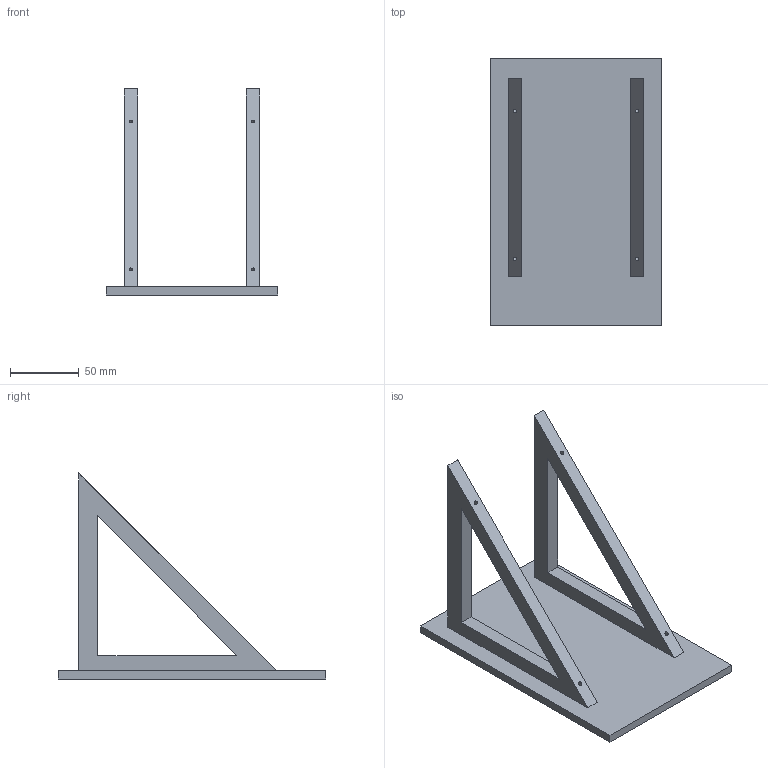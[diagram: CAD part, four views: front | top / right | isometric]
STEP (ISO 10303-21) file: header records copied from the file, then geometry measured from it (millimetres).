
FILE_DESCRIPTION(('Open CASCADE Model'),'2;1');
FILE_NAME('Open CASCADE Shape Model','2026-11-11T15:03:46',('Author'),( 'Open CASCADE'),'Open CASCADE STEP processor 7.8','Open CASCADE 7.8' ,'Unknown');
FILE_SCHEMA(('AUTOMOTIVE_DESIGN { 1 0 10303 214 1 1 1 1 }'));
Length unit declared in the file: millimetre
Products named in the file (1): Open CASCADE STEP translator 7.8 3
Bounding box: 125 x 195 x 150 mm (x, y, z)
Volume: 249954.4 mm3; surface area: 84884.1 mm2
Topology: 1 solids, 1 shells, 36 faces, 72 edges, 48 vertices
Faces by surface type: plane 28, cylinder 8
Full cylindrical faces by diameter (mm): 2.7 x4, 12 x4
Entity records: 1862 total; most frequent: CARTESIAN_POINT 361, DIRECTION 266, LINE 148, VECTOR 148, ORIENTED_EDGE 144, PCURVE 144, DEFINITIONAL_REPRESENTATION 144, EDGE_CURVE 72
